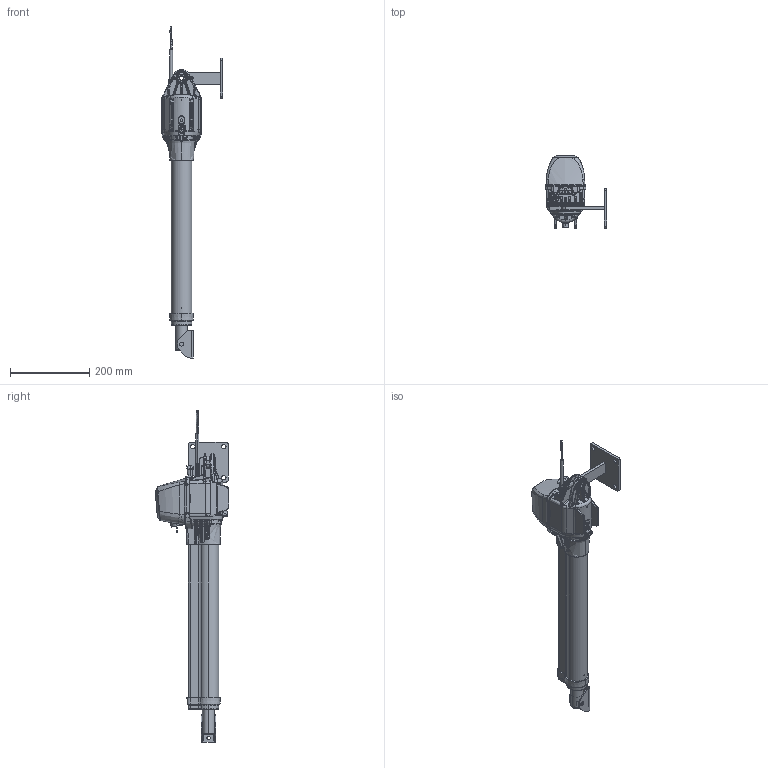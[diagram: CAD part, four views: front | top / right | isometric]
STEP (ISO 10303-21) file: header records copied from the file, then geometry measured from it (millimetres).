
FILE_DESCRIPTION (( 'STEP AP203' ), '1' );
FILE_NAME ('ccccc twist M Kunde.STEP', '2023-06-19T09:52:45', ( '' ), ( '' ), 'SwSTEP 2.0', 'SolidWorks 2021', '' );
FILE_SCHEMA (( 'CONFIG_CONTROL_DESIGN' ));
Length unit declared in the file: millimetre
Products named in the file (5): ccccc twist M  Kunde; twist M 1 Kunde_1; twist M 2 Kunde_1; S11179-00001_Torflügelbeschlag_twist_1; 2251V000_Torpfostenbeschlag_1
Assembly tree (4 placements, depth 2):
  ccccc twist M  Kunde
    twist M 1 Kunde_1
    twist M 2 Kunde_1
    S11179-00001_Torflügelbeschlag_twist_1
    2251V000_Torpfostenbeschlag_1
Bounding box: 155.39 x 184.47 x 836.58 mm (x, y, z)
Volume: 229792.5 mm3; surface area: 456585.5 mm2
Topology: 21 solids, 22 shells, 4049 faces, 10226 edges, 6249 vertices
Faces by surface type: bspline 1876, plane 937, cylinder 864, cone 372
Entity records: 195292 total; most frequent: CARTESIAN_POINT 112736, ORIENTED_EDGE 20312, DIRECTION 12553, EDGE_CURVE 10156, VERTEX_POINT 6249, AXIS2_PLACEMENT_3D 4630, EDGE_LOOP 4203, B_SPLINE_CURVE_WITH_KNOTS 4076
